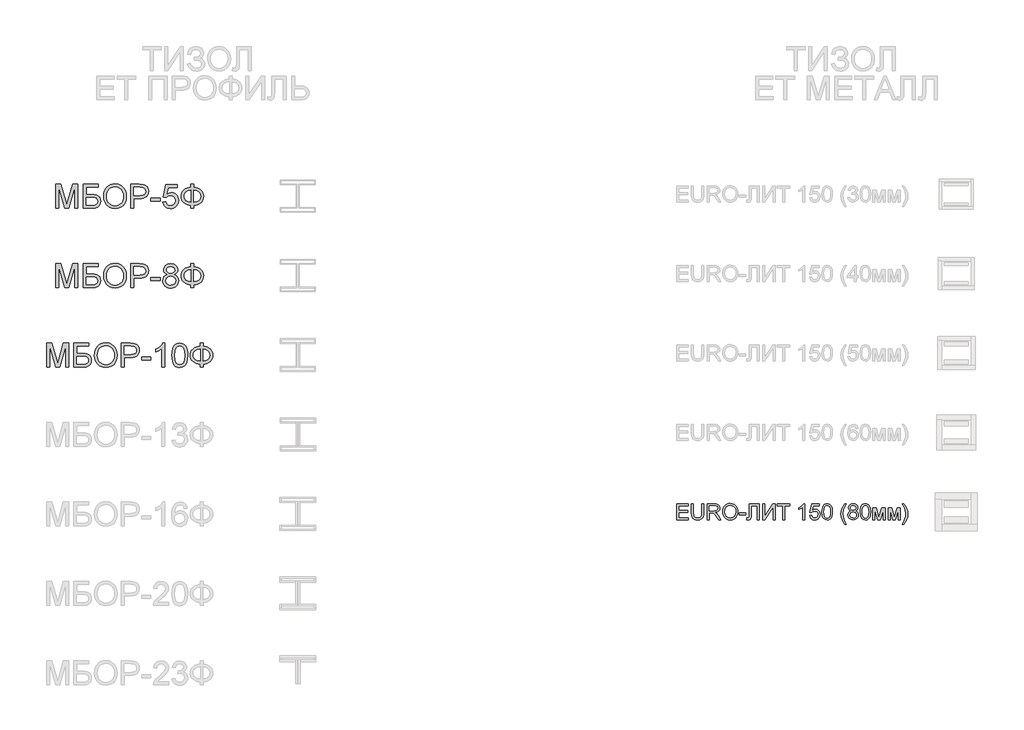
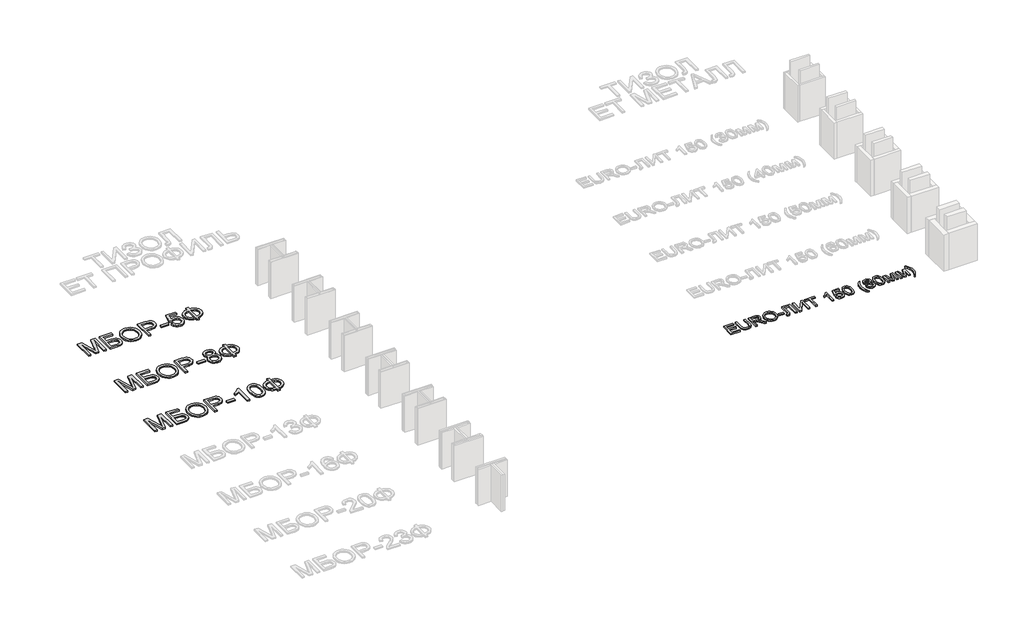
# One storey, part 15 of 35: 4 proxies.
"""IFC4 building model written with IfcOpenShell, lengths in millimetres."""

from ifc_helpers import new_model, si_unit, origin, origin_with_axes, place, context, project, spatial, polyline, outline, extrude, element, save

model = new_model("IFC4")

# Units and contexts
model_context = context("Model", 3, world=origin())
ifc_project = project(units=[si_unit("LENGTHUNIT", "METRE", prefix="MILLI")], contexts=[model_context])

# Site, building, storey
site = spatial("IfcSite", under=ifc_project)
building = spatial("IfcBuilding", under=site)
storey = spatial("IfcBuildingStorey", under=building, Name="Этаж 01", Elevation=0.0)

# Proxies
placement = place(None, origin())
element("IfcBuildingElementProxy", 1, Name="600 мм Arial", ObjectType="600 мм Arial", at=placement, inside=storey, context=model_context, shape_type="SweptSolid", body=[
    extrude(outline(polyline([(15621.8782648, -49310.4960856), (15621.8782648, -49009.1271552), (15686.6990723, -49009.1271552), (15748.3560947, -49221.5422192), (15760.7905062, -49265.9087878), (15774.2549872, -49217.8633993), (15834.88194, -49009.1271552), (15899.7027475, -49009.1271552), (15899.7027475, -49310.4960856), (15862.0316312, -49310.4960856), (15862.0316312, -49046.7982715), (15786.3215166, -49310.4960856), (15735.2594957, -49310.4960856), (15659.5493811, -49046.7982715), (15659.5493811, -49310.4960856), (15621.8782648, -49310.4960856)])), origin_with_axes(), (0.0, 0.0, 1.0), 20.0),
    extrude(outline(polyline([(15965.6272011, -49009.1271552), (16153.9827826, -49009.1271552), (16153.9827826, -49046.7982715), (16003.2983174, -49046.7982715), (16003.2983174, -49136.2671727), (16073.8580841, -49136.2671727), (16108.9356323, -49138.1801591), (16136.0301412, -49143.9191182), (16156.8338681, -49154.9739722), (16173.03907, -49172.8346431), (16183.4685245, -49195.8272678), (16186.9450094, -49222.2779832), (16184.471003, -49244.4888587), (16177.0489837, -49265.209812), (16164.7157398, -49283.3555915), (16147.5080595, -49297.840945), (16120.9653735, -49307.3323005), (16080.6271128, -49310.4960856), (15965.6272011, -49310.4960856), (15965.6272011, -49009.1271552)]), holes=[polyline([(16003.2983174, -49272.8249693), (16084.0116271, -49272.8249693), (16112.5408758, -49269.7163665), (16132.9399325, -49260.3905579), (16145.1904029, -49244.8475436), (16149.2738931, -49223.0873236), (16146.9378424, -49206.8821217), (16139.9296904, -49193.5831876), (16128.7552748, -49183.7239501), (16113.9204333, -49177.8378382), (16057.1562415, -49173.938289), (16003.2983174, -49173.938289), (16003.2983174, -49272.8249693)])]), origin_with_axes(), (0.0, 0.0, 1.0), 20.0),
    extrude(outline(polyline([(16224.6161257, -49163.784746), (16227.1269203, -49128.4358848), (16234.6593041, -49097.1429225), (16247.2132772, -49069.9058593), (16264.7888396, -49046.7246951), (16286.3329289, -49028.2156322), (16310.792483, -49014.994873), (16338.167502, -49007.0624175), (16368.4579858, -49004.4182657), (16407.9869062, -49009.3846726), (16443.4323364, -49024.2838934), (16472.862896, -49048.0674644), (16494.3472045, -49079.6869219), (16507.4805918, -49117.6155556), (16511.8583875, -49160.3266552), (16507.2506655, -49203.607972), (16493.4274996, -49242.0700345), (16471.1522447, -49273.7446743), (16441.1882562, -49296.6637226), (16406.0463287, -49310.569662), (16368.2372566, -49315.2049752), (16328.1013309, -49310.0822184), (16292.4535656, -49294.7139481), (16263.0965824, -49270.4889187), (16241.8330031, -49238.7958848), (16228.920345, -49202.329582), (16224.6161257, -49163.784746)]), holes=[polyline([(16262.287242, -49164.152628), (16264.1703379, -49189.1272169), (16269.8196258, -49211.2967056), (16279.2351057, -49230.6610942), (16292.4167774, -49247.2203825), (16308.4403375, -49260.4825284), (16326.3814826, -49269.9554898), (16346.2402125, -49275.6392666), (16368.0165274, -49277.5338589), (16390.1653228, -49275.6208725), (16410.2585775, -49269.8819134), (16428.2962916, -49260.3169815), (16444.278465, -49246.9260769), (16457.3635677, -49230.0173007), (16466.7100697, -49209.8987541), (16472.3179708, -49186.570437), (16474.1872712, -49160.0323496), (16470.9866978, -49126.6838468), (16461.3849778, -49097.8602924), (16445.6304313, -49074.2882536), (16423.9713789, -49056.6942972), (16397.8425602, -49045.7406108), (16368.678715, -49042.089382), (16347.6588575, -49043.8483178), (16328.1565132, -49049.1251251), (16310.1716822, -49057.9198041), (16293.7043644, -49070.2323546), (16279.9593733, -49086.6559864), (16270.1415226, -49107.7839093), (16264.2508121, -49133.6161231), (16262.287242, -49164.152628)])]), origin_with_axes(), (0.0, 0.0, 1.0), 20.0),
    extrude(outline(polyline([(16563.6561724, -49310.4960856), (16563.6561724, -49009.1271552), (16675.3451462, -49009.1271552), (16720.3739024, -49011.9966348), (16740.4510623, -49017.3585148), (16756.9781609, -49026.0865152), (16770.2862921, -49038.5761089), (16780.7065496, -49055.2227692), (16787.4387901, -49074.8584707), (16789.6828703, -49096.3151881), (16788.1676563, -49114.8150539), (16783.6220144, -49131.8341947), (16776.0459446, -49147.3726105), (16765.4394468, -49161.4303012), (16750.8782176, -49173.0829634), (16731.4379534, -49181.4062935), (16707.1186542, -49186.4002916), (16677.9203201, -49188.0649577), (16601.3272887, -49188.0649577), (16601.3272887, -49310.4960856), (16563.6561724, -49310.4960856)]), holes=[polyline([(16601.3272887, -49150.3938413), (16680.1276121, -49150.3938413), (16713.5312973, -49146.9357506), (16735.604217, -49136.5614783), (16747.9098697, -49119.914818), (16752.011754, -49097.6395632), (16749.5929298, -49080.7169915), (16742.3364575, -49066.44317), (16731.1436478, -49055.7010158), (16716.9158116, -49049.3734455), (16679.2446953, -49046.7982715), (16601.3272887, -49046.7982715), (16601.3272887, -49150.3938413)])]), origin_with_axes(), (0.0, 0.0, 1.0), 20.0),
    extrude(outline(polyline([(16817.9362075, -49221.0271844), (16817.9362075, -49183.3560681), (16935.658446, -49183.3560681), (16935.658446, -49221.0271844), (16817.9362075, -49221.0271844)])), origin_with_axes(), (0.0, 0.0, 1.0), 20.0),
    extrude(outline(polyline([(16968.6206727, -49230.4449635), (17006.291789, -49225.736074), (17013.2079705, -49248.3516196), (17025.2745, -49264.5476245), (17042.4361951, -49274.2873003), (17064.6378735, -49277.5338589), (17091.6404119, -49273.0181074), (17111.8739216, -49259.4708529), (17124.5106682, -49238.4555939), (17128.722917, -49211.5358289), (17124.7773826, -49186.1887595), (17112.9407794, -49166.8013783), (17093.1211369, -49154.4957256), (17065.2264847, -49150.3938413), (17046.9519465, -49152.0309162), (17032.1538933, -49156.9421409), (17011.0006786, -49173.938289), (16973.3295623, -49169.2293995), (17006.291789, -49013.8360447), (17152.2673647, -49013.8360447), (17152.2673647, -49051.507161), (17036.7524182, -49051.507161), (17020.6391868, -49134.5013392), (17047.5497548, -49118.1673786), (17075.7479097, -49112.722725), (17094.093725, -49114.4103837), (17110.9450196, -49119.4733597), (17126.3017936, -49127.9116529), (17140.1640471, -49139.7252635), (17151.6396661, -49154.1922229), (17159.8365368, -49170.5905629), (17164.7546592, -49188.9202833), (17166.3940333, -49209.1813842), (17160.4895273, -49246.8525005), (17153.1088948, -49263.6463136), (17142.7760092, -49279.0789633), (17127.1226303, -49294.8840935), (17108.8572893, -49306.1734722), (17087.9799861, -49312.9470994), (17064.4907207, -49315.2049752), (17027.490989, -49309.4016367), (17011.8123182, -49302.1474636), (16998.0144441, -49291.9916213), (16986.5342266, -49279.4399475), (16977.8085256, -49264.9982799), (16968.6206727, -49230.4449635)])), origin_with_axes(), (0.0, 0.0, 1.0), 20.0),
    extrude(outline(polyline([(17321.7873881, -49046.7982715), (17321.7873881, -49009.1271552), (17359.4585044, -49009.1271552), (17359.4585044, -49046.7982715), (17386.3299849, -49050.1184065), (17410.2170227, -49056.9886028), (17431.1196178, -49067.4088603), (17449.0377702, -49081.3791791), (17463.4104599, -49098.0856202), (17473.6766669, -49116.7142447), (17479.836391, -49137.2650526), (17481.8896324, -49159.738044), (17479.9007704, -49181.76038), (17473.9341842, -49202.0628676), (17463.9898741, -49220.6455069), (17450.0678398, -49237.5082978), (17432.4715841, -49251.7177399), (17411.5046097, -49262.3403325), (17387.1669164, -49269.3760756), (17359.4585044, -49272.8249693), (17359.4585044, -49310.4960856), (17321.7873881, -49310.4960856), (17321.7873881, -49272.8249693), (17296.6196611, -49270.0175699), (17273.650029, -49263.6555106), (17252.8784919, -49253.7387916), (17234.3050496, -49240.2674128), (17219.0149542, -49223.7977957), (17208.0934575, -49204.8863619), (17201.5405594, -49183.5331113), (17199.3562601, -49159.738044), (17201.5336617, -49135.8349114), (17208.0658663, -49114.4517704), (17218.9528741, -49095.5886211), (17234.194685, -49079.2454635), (17252.7336383, -49065.9051426), (17273.5120733, -49056.0505037), (17296.5299899, -49049.6815466), (17321.7873881, -49046.7982715)]), holes=[polyline([(17321.7873881, -49084.4693878), (17287.5099832, -49090.5026525), (17260.4614595, -49105.5122379), (17250.2090481, -49116.217604), (17242.8858972, -49128.8359564), (17238.4920066, -49143.3672952), (17237.0273764, -49159.8116204), (17238.4736125, -49176.1064935), (17242.8123208, -49190.5573582), (17250.0435012, -49203.1642143), (17260.1671539, -49213.9270619), (17287.1421012, -49229.0746031), (17321.7873881, -49235.153853), (17321.7873881, -49084.4693878)]), polyline([(17359.4585044, -49084.4693878), (17359.4585044, -49235.153853), (17394.7015995, -49228.9274503), (17421.5569852, -49213.7799091), (17431.471405, -49203.0538497), (17438.5531334, -49190.4837818), (17444.2185161, -49159.8116204), (17438.6543009, -49129.5533263), (17431.6990319, -49117.0591341), (17421.9616554, -49106.3215783), (17395.2074373, -49090.9992932), (17359.4585044, -49084.4693878)])]), origin_with_axes(), (0.0, 0.0, 1.0), 20.0),
])
element("IfcBuildingElementProxy", 2, Name="600 мм Arial", ObjectType="600 мм Arial", at=placement, inside=storey, context=model_context, shape_type="SweptSolid", body=[
    extrude(outline(polyline([(15621.8782648, -50310.4960856), (15621.8782648, -50009.1271552), (15686.6990723, -50009.1271552), (15748.3560947, -50221.5422192), (15760.7905062, -50265.9087878), (15774.2549872, -50217.8633993), (15834.88194, -50009.1271552), (15899.7027475, -50009.1271552), (15899.7027475, -50310.4960856), (15862.0316312, -50310.4960856), (15862.0316312, -50046.7982715), (15786.3215166, -50310.4960856), (15735.2594957, -50310.4960856), (15659.5493811, -50046.7982715), (15659.5493811, -50310.4960856), (15621.8782648, -50310.4960856)])), origin_with_axes(), (0.0, 0.0, 1.0), 20.0),
    extrude(outline(polyline([(15965.6272011, -50009.1271552), (16153.9827826, -50009.1271552), (16153.9827826, -50046.7982715), (16003.2983174, -50046.7982715), (16003.2983174, -50136.2671727), (16073.8580841, -50136.2671727), (16108.9356323, -50138.1801591), (16136.0301412, -50143.9191182), (16156.8338681, -50154.9739722), (16173.03907, -50172.8346431), (16183.4685245, -50195.8272678), (16186.9450094, -50222.2779832), (16184.471003, -50244.4888587), (16177.0489837, -50265.209812), (16164.7157398, -50283.3555915), (16147.5080595, -50297.840945), (16120.9653735, -50307.3323005), (16080.6271128, -50310.4960856), (15965.6272011, -50310.4960856), (15965.6272011, -50009.1271552)]), holes=[polyline([(16003.2983174, -50272.8249693), (16084.0116271, -50272.8249693), (16112.5408758, -50269.7163665), (16132.9399325, -50260.3905579), (16145.1904029, -50244.8475436), (16149.2738931, -50223.0873236), (16146.9378424, -50206.8821217), (16139.9296904, -50193.5831876), (16128.7552748, -50183.7239501), (16113.9204333, -50177.8378382), (16057.1562415, -50173.938289), (16003.2983174, -50173.938289), (16003.2983174, -50272.8249693)])]), origin_with_axes(), (0.0, 0.0, 1.0), 20.0),
    extrude(outline(polyline([(16224.6161257, -50163.784746), (16227.1269203, -50128.4358848), (16234.6593041, -50097.1429225), (16247.2132772, -50069.9058593), (16264.7888396, -50046.7246951), (16286.3329289, -50028.2156322), (16310.792483, -50014.994873), (16338.167502, -50007.0624175), (16368.4579858, -50004.4182657), (16407.9869062, -50009.3846726), (16443.4323364, -50024.2838934), (16472.862896, -50048.0674644), (16494.3472045, -50079.6869219), (16507.4805918, -50117.6155556), (16511.8583875, -50160.3266552), (16507.2506655, -50203.607972), (16493.4274996, -50242.0700345), (16471.1522447, -50273.7446743), (16441.1882562, -50296.6637226), (16406.0463287, -50310.569662), (16368.2372566, -50315.2049752), (16328.1013309, -50310.0822184), (16292.4535656, -50294.7139481), (16263.0965824, -50270.4889187), (16241.8330031, -50238.7958848), (16228.920345, -50202.329582), (16224.6161257, -50163.784746)]), holes=[polyline([(16262.287242, -50164.152628), (16264.1703379, -50189.1272169), (16269.8196258, -50211.2967056), (16279.2351057, -50230.6610942), (16292.4167774, -50247.2203825), (16308.4403375, -50260.4825284), (16326.3814826, -50269.9554898), (16346.2402125, -50275.6392666), (16368.0165274, -50277.5338589), (16390.1653228, -50275.6208725), (16410.2585775, -50269.8819134), (16428.2962916, -50260.3169815), (16444.278465, -50246.9260769), (16457.3635677, -50230.0173007), (16466.7100697, -50209.8987541), (16472.3179708, -50186.570437), (16474.1872712, -50160.0323496), (16470.9866978, -50126.6838468), (16461.3849778, -50097.8602924), (16445.6304313, -50074.2882536), (16423.9713789, -50056.6942972), (16397.8425602, -50045.7406108), (16368.678715, -50042.089382), (16347.6588575, -50043.8483178), (16328.1565132, -50049.1251251), (16310.1716822, -50057.9198041), (16293.7043644, -50070.2323546), (16279.9593733, -50086.6559864), (16270.1415226, -50107.7839093), (16264.2508121, -50133.6161231), (16262.287242, -50164.152628)])]), origin_with_axes(), (0.0, 0.0, 1.0), 20.0),
    extrude(outline(polyline([(16563.6561724, -50310.4960856), (16563.6561724, -50009.1271552), (16675.3451462, -50009.1271552), (16720.3739024, -50011.9966348), (16740.4510623, -50017.3585148), (16756.9781609, -50026.0865152), (16770.2862921, -50038.5761089), (16780.7065496, -50055.2227692), (16787.4387901, -50074.8584707), (16789.6828703, -50096.3151881), (16788.1676563, -50114.8150539), (16783.6220144, -50131.8341947), (16776.0459446, -50147.3726105), (16765.4394468, -50161.4303012), (16750.8782176, -50173.0829634), (16731.4379534, -50181.4062935), (16707.1186542, -50186.4002916), (16677.9203201, -50188.0649577), (16601.3272887, -50188.0649577), (16601.3272887, -50310.4960856), (16563.6561724, -50310.4960856)]), holes=[polyline([(16601.3272887, -50150.3938413), (16680.1276121, -50150.3938413), (16713.5312973, -50146.9357506), (16735.604217, -50136.5614783), (16747.9098697, -50119.914818), (16752.011754, -50097.6395632), (16749.5929298, -50080.7169915), (16742.3364575, -50066.44317), (16731.1436478, -50055.7010158), (16716.9158116, -50049.3734455), (16679.2446953, -50046.7982715), (16601.3272887, -50046.7982715), (16601.3272887, -50150.3938413)])]), origin_with_axes(), (0.0, 0.0, 1.0), 20.0),
    extrude(outline(polyline([(16817.9362075, -50221.0271844), (16817.9362075, -50183.3560681), (16935.658446, -50183.3560681), (16935.658446, -50221.0271844), (16817.9362075, -50221.0271844)])), origin_with_axes(), (0.0, 0.0, 1.0), 20.0),
    extrude(outline(polyline([(17023.5086664, -50144.5077294), (17003.339536, -50134.5749156), (16989.1852763, -50121.1104345), (16980.8251579, -50104.3901979), (16978.0384518, -50084.690117), (16979.555965, -50069.3264452), (16984.1085047, -50055.2411633), (16991.6960709, -50042.4342713), (17002.3186635, -50030.9057693), (17015.4658463, -50021.3776256), (17030.627183, -50014.5718087), (17066.9923182, -50009.1271552), (17103.5781827, -50014.7005674), (17118.9050663, -50021.6673327), (17132.2545842, -50031.4208041), (17143.0703148, -50043.1746339), (17150.7958367, -50056.1424742), (17155.4311499, -50070.3243251), (17156.9762543, -50085.7201866), (17154.2263363, -50104.785671), (17145.9765826, -50121.2207991), (17132.1350225, -50134.6025067), (17112.6096856, -50144.5077294), (17135.7954484, -50156.4546972), (17152.6720349, -50174.0486536), (17162.9635337, -50196.4434701), (17166.3940333, -50222.793018), (17164.6925791, -50241.5825909), (17159.5882164, -50258.8086653), (17151.0809453, -50274.4712413), (17139.1707657, -50288.5703187), (17124.483077, -50300.2229809), (17107.6432787, -50308.5463111), (17088.6513707, -50313.5403092), (17067.507353, -50315.2049752), (17046.3633354, -50313.5334114), (17027.3714274, -50308.5187199), (17010.531629, -50300.1609008), (16995.8439404, -50288.4599541), (16983.9337608, -50274.2620084), (16975.4264896, -50258.4131922), (16970.322127, -50240.9135055), (16968.6206727, -50221.7629484), (16972.1891281, -50194.392528), (16982.8944941, -50171.8781499), (17000.1849479, -50154.9923663), (17023.5086664, -50144.5077294)]), holes=[polyline([(17015.7095681, -50085.793763), (17019.0480972, -50102.2380882), (17029.0636845, -50115.3714754), (17045.4620245, -50123.9799141), (17067.9488114, -50126.8493937), (17089.9113665, -50123.9983082), (17106.0613861, -50115.4450518), (17115.9942, -50102.753123), (17119.3051379, -50087.4860202), (17115.8838354, -50071.6395032), (17105.6199277, -50058.5337072), (17089.2491789, -50049.7321304), (17067.507353, -50046.7982715), (17045.6275714, -50049.6677511), (17029.2844137, -50058.2761898), (17019.1032795, -50070.8945422), (17015.7095681, -50085.793763)]), polyline([(17006.291789, -50220.4385732), (17012.5825711, -50248.8022751), (17021.2921774, -50260.969972), (17034.8394319, -50270.0290662), (17051.0630278, -50275.6576607), (17067.8016586, -50277.5338589), (17093.4430337, -50273.5883245), (17112.683262, -50261.7517213), (17124.7130033, -50243.8266711), (17128.722917, -50221.6157956), (17124.5842446, -50199.0278411), (17112.1682272, -50180.7073178), (17092.4865405, -50168.5672119), (17066.5508598, -50164.52051), (17041.2681697, -50168.5120296), (17022.2210794, -50180.4865886), (17010.2741116, -50198.457624), (17006.291789, -50220.4385732)])]), origin_with_axes(), (0.0, 0.0, 1.0), 20.0),
    extrude(outline(polyline([(17321.7873881, -50046.7982715), (17321.7873881, -50009.1271552), (17359.4585044, -50009.1271552), (17359.4585044, -50046.7982715), (17386.3299849, -50050.1184065), (17410.2170227, -50056.9886028), (17431.1196178, -50067.4088603), (17449.0377702, -50081.3791791), (17463.4104599, -50098.0856202), (17473.6766669, -50116.7142447), (17479.836391, -50137.2650526), (17481.8896324, -50159.738044), (17479.9007704, -50181.76038), (17473.9341842, -50202.0628676), (17463.9898741, -50220.6455069), (17450.0678398, -50237.5082978), (17432.4715841, -50251.7177399), (17411.5046097, -50262.3403325), (17387.1669164, -50269.3760756), (17359.4585044, -50272.8249693), (17359.4585044, -50310.4960856), (17321.7873881, -50310.4960856), (17321.7873881, -50272.8249693), (17296.6196611, -50270.0175699), (17273.650029, -50263.6555106), (17252.8784919, -50253.7387916), (17234.3050496, -50240.2674128), (17219.0149542, -50223.7977957), (17208.0934575, -50204.8863619), (17201.5405594, -50183.5331113), (17199.3562601, -50159.738044), (17201.5336617, -50135.8349114), (17208.0658663, -50114.4517704), (17218.9528741, -50095.5886211), (17234.194685, -50079.2454635), (17252.7336383, -50065.9051426), (17273.5120733, -50056.0505037), (17296.5299899, -50049.6815466), (17321.7873881, -50046.7982715)]), holes=[polyline([(17321.7873881, -50084.4693878), (17287.5099832, -50090.5026525), (17260.4614595, -50105.5122379), (17250.2090481, -50116.217604), (17242.8858972, -50128.8359564), (17238.4920066, -50143.3672952), (17237.0273764, -50159.8116204), (17238.4736125, -50176.1064935), (17242.8123208, -50190.5573582), (17250.0435012, -50203.1642143), (17260.1671539, -50213.9270619), (17287.1421012, -50229.0746031), (17321.7873881, -50235.153853), (17321.7873881, -50084.4693878)]), polyline([(17359.4585044, -50084.4693878), (17359.4585044, -50235.153853), (17394.7015995, -50228.9274503), (17421.5569852, -50213.7799091), (17431.471405, -50203.0538497), (17438.5531334, -50190.4837818), (17444.2185161, -50159.8116204), (17438.6543009, -50129.5533263), (17431.6990319, -50117.0591341), (17421.9616554, -50106.3215783), (17395.2074373, -50090.9992932), (17359.4585044, -50084.4693878)])]), origin_with_axes(), (0.0, 0.0, 1.0), 20.0),
])
element("IfcBuildingElementProxy", 3, Name="600 мм Arial", ObjectType="600 мм Arial", at=placement, inside=storey, context=model_context, shape_type="SweptSolid", body=[
    extrude(outline(polyline([(15506.5104711, -51310.4960856), (15506.5104711, -51009.1271552), (15571.3312786, -51009.1271552), (15632.988301, -51221.5422192), (15645.4227125, -51265.9087878), (15658.8871935, -51217.8633993), (15719.5141463, -51009.1271552), (15784.3349539, -51009.1271552), (15784.3349539, -51310.4960856), (15746.6638375, -51310.4960856), (15746.6638375, -51046.7982715), (15670.9537229, -51310.4960856), (15619.891702, -51310.4960856), (15544.1815874, -51046.7982715), (15544.1815874, -51310.4960856), (15506.5104711, -51310.4960856)])), origin_with_axes(), (0.0, 0.0, 1.0), 20.0),
    extrude(outline(polyline([(15850.2594074, -51009.1271552), (16038.6149889, -51009.1271552), (16038.6149889, -51046.7982715), (15887.9305237, -51046.7982715), (15887.9305237, -51136.2671727), (15958.4902904, -51136.2671727), (15993.5678386, -51138.1801591), (16020.6623476, -51143.9191182), (16041.4660744, -51154.9739722), (16057.6712763, -51172.8346431), (16068.1007308, -51195.8272678), (16071.5772157, -51222.2779832), (16069.1032093, -51244.4888587), (16061.68119, -51265.209812), (16049.3479461, -51283.3555915), (16032.1402658, -51297.840945), (16005.5975799, -51307.3323005), (15965.2593191, -51310.4960856), (15850.2594074, -51310.4960856), (15850.2594074, -51009.1271552)]), holes=[polyline([(15887.9305237, -51272.8249693), (15968.6438334, -51272.8249693), (15997.1730822, -51269.7163665), (16017.5721388, -51260.3905579), (16029.8226092, -51244.8475436), (16033.9060994, -51223.0873236), (16031.5700487, -51206.8821217), (16024.5618967, -51193.5831876), (16013.3874811, -51183.7239501), (15998.5526396, -51177.8378382), (15941.7884478, -51173.938289), (15887.9305237, -51173.938289), (15887.9305237, -51272.8249693)])]), origin_with_axes(), (0.0, 0.0, 1.0), 20.0),
    extrude(outline(polyline([(16109.248332, -51163.784746), (16111.7591266, -51128.4358848), (16119.2915105, -51097.1429225), (16131.8454835, -51069.9058593), (16149.4210459, -51046.7246951), (16170.9651352, -51028.2156322), (16195.4246894, -51014.994873), (16222.7997083, -51007.0624175), (16253.0901921, -51004.4182657), (16292.6191125, -51009.3846726), (16328.0645427, -51024.2838934), (16357.4951023, -51048.0674644), (16378.9794109, -51079.6869219), (16392.1127981, -51117.6155556), (16396.4905938, -51160.3266552), (16391.8828718, -51203.607972), (16378.0597059, -51242.0700345), (16355.7844511, -51273.7446743), (16325.8204626, -51296.6637226), (16290.678535, -51310.569662), (16252.8694629, -51315.2049752), (16212.7335372, -51310.0822184), (16177.0857719, -51294.7139481), (16147.7287887, -51270.4889187), (16126.4652094, -51238.7958848), (16113.5525513, -51202.329582), (16109.248332, -51163.784746)]), holes=[polyline([(16146.9194483, -51164.152628), (16148.8025443, -51189.1272169), (16154.4518321, -51211.2967056), (16163.867312, -51230.6610942), (16177.0489837, -51247.2203825), (16193.0725439, -51260.4825284), (16211.0136889, -51269.9554898), (16230.8724189, -51275.6392666), (16252.6487337, -51277.5338589), (16274.7975291, -51275.6208725), (16294.8907838, -51269.8819134), (16312.9284979, -51260.3169815), (16328.9106713, -51246.9260769), (16341.995774, -51230.0173007), (16351.342276, -51209.8987541), (16356.9501771, -51186.570437), (16358.8194775, -51160.0323496), (16355.6189042, -51126.6838468), (16346.0171841, -51097.8602924), (16330.2626376, -51074.2882536), (16308.6035852, -51056.6942972), (16282.4747665, -51045.7406108), (16253.3109213, -51042.089382), (16232.2910638, -51043.8483178), (16212.7887195, -51049.1251251), (16194.8038885, -51057.9198041), (16178.3365707, -51070.2323546), (16164.5915796, -51086.6559864), (16154.7737289, -51107.7839093), (16148.8830184, -51133.6161231), (16146.9194483, -51164.152628)])]), origin_with_axes(), (0.0, 0.0, 1.0), 20.0),
    extrude(outline(polyline([(16448.2883787, -51310.4960856), (16448.2883787, -51009.1271552), (16559.9773525, -51009.1271552), (16605.0061087, -51011.9966348), (16625.0832686, -51017.3585148), (16641.6103672, -51026.0865152), (16654.9184984, -51038.5761089), (16665.3387559, -51055.2227692), (16672.0709964, -51074.8584707), (16674.3150766, -51096.3151881), (16672.7998626, -51114.8150539), (16668.2542207, -51131.8341947), (16660.6781509, -51147.3726105), (16650.0716531, -51161.4303012), (16635.5104239, -51173.0829634), (16616.0701597, -51181.4062935), (16591.7508606, -51186.4002916), (16562.5525264, -51188.0649577), (16485.9594951, -51188.0649577), (16485.9594951, -51310.4960856), (16448.2883787, -51310.4960856)]), holes=[polyline([(16485.9594951, -51150.3938413), (16564.7598184, -51150.3938413), (16598.1635036, -51146.9357506), (16620.2364233, -51136.5614783), (16632.542076, -51119.914818), (16636.6439603, -51097.6395632), (16634.2251362, -51080.7169915), (16626.9686638, -51066.44317), (16615.7758541, -51055.7010158), (16601.5480179, -51049.3734455), (16563.8769016, -51046.7982715), (16485.9594951, -51046.7982715), (16485.9594951, -51150.3938413)])]), origin_with_axes(), (0.0, 0.0, 1.0), 20.0),
    extrude(outline(polyline([(16702.5684138, -51221.0271844), (16702.5684138, -51183.3560681), (16820.2906523, -51183.3560681), (16820.2906523, -51221.0271844), (16702.5684138, -51221.0271844)])), origin_with_axes(), (0.0, 0.0, 1.0), 20.0),
    extrude(outline(polyline([(16994.5195652, -51310.4960856), (16956.8484489, -51310.4960856), (16956.8484489, -51075.6402199), (16921.1638953, -51101.0608658), (16881.5062163, -51120.0803649), (16881.5062163, -51084.4693878), (16911.0931257, -51068.3745505), (16936.7253037, -51049.2262927), (16956.9312223, -51028.8640242), (16970.2393535, -51009.1271552), (16994.5195652, -51009.1271552), (16994.5195652, -51310.4960856)])), origin_with_axes(), (0.0, 0.0, 1.0), 20.0),
    extrude(outline(polyline([(17083.9884664, -51162.2396416), (17086.7567784, -51114.001115), (17095.0617145, -51075.5298553), (17108.8205011, -51046.2372515), (17127.9503648, -51025.5346922), (17152.5892615, -51013.2290394), (17182.8751467, -51009.1271552), (17206.0885006, -51011.5551764), (17226.8738333, -51018.8392399), (17244.2562576, -51030.6942372), (17257.2608861, -51046.8350597), (17267.0833354, -51067.1237517), (17274.9192219, -51091.4223575), (17280.0511757, -51122.2784599), (17281.761827, -51162.2396416), (17279.0211062, -51210.2022567), (17270.7989436, -51248.5815459), (17257.1229304, -51277.9017409), (17238.0206578, -51298.6870736), (17213.3265789, -51311.0754998), (17182.8751467, -51315.2049752), (17162.1266022, -51313.4115505), (17143.7325024, -51308.0312763), (17127.6928474, -51299.0641526), (17114.0076372, -51286.5101796), (17100.87425, -51263.816459), (17091.4932591, -51235.5401291), (17085.8646646, -51201.68119), (17083.9884664, -51162.2396416)]), holes=[polyline([(17121.6595827, -51162.1660652), (17126.0741667, -51221.4226576), (17131.5923966, -51241.6906562), (17139.3179185, -51255.7184566), (17159.0363934, -51272.0800083), (17182.8751467, -51277.5338589), (17206.7139, -51272.0616142), (17226.4323749, -51255.6448802), (17234.1578968, -51241.5940872), (17239.6761268, -51221.3306871), (17244.0907107, -51162.1660652), (17239.8232796, -51104.2430451), (17234.4889906, -51084.041725), (17227.0209861, -51069.6805316), (17207.3392994, -51052.5188365), (17182.4336883, -51046.7982715), (17158.8524524, -51051.8382548), (17139.9065297, -51066.9582048), (17131.9234904, -51082.5931896), (17126.2213195, -51103.672828), (17121.6595827, -51162.1660652)])]), origin_with_axes(), (0.0, 0.0, 1.0), 20.0),
    extrude(outline(polyline([(17437.1551818, -51046.7982715), (17437.1551818, -51009.1271552), (17474.8262981, -51009.1271552), (17474.8262981, -51046.7982715), (17501.6977786, -51050.1184065), (17525.5848164, -51056.9886028), (17546.4874115, -51067.4088603), (17564.4055639, -51081.3791791), (17578.7782536, -51098.0856202), (17589.0444605, -51116.7142447), (17595.2041847, -51137.2650526), (17597.2574261, -51159.738044), (17595.268564, -51181.76038), (17589.3019779, -51202.0628676), (17579.3576678, -51220.6455069), (17565.4356335, -51237.5082978), (17547.8393778, -51251.7177399), (17526.8724034, -51262.3403325), (17502.5347101, -51269.3760756), (17474.8262981, -51272.8249693), (17474.8262981, -51310.4960856), (17437.1551818, -51310.4960856), (17437.1551818, -51272.8249693), (17411.9874548, -51270.0175699), (17389.0178227, -51263.6555106), (17368.2462856, -51253.7387916), (17349.6728433, -51240.2674128), (17334.3827479, -51223.7977957), (17323.4612512, -51204.8863619), (17316.9083531, -51183.5331113), (17314.7240538, -51159.738044), (17316.9014553, -51135.8349114), (17323.43366, -51114.4517704), (17334.3206678, -51095.5886211), (17349.5624787, -51079.2454635), (17368.101432, -51065.9051426), (17388.879867, -51056.0505037), (17411.8977836, -51049.6815466), (17437.1551818, -51046.7982715)]), holes=[polyline([(17474.8262981, -51084.4693878), (17474.8262981, -51235.153853), (17510.0693932, -51228.9274503), (17536.9247789, -51213.7799091), (17546.8391986, -51203.0538497), (17553.9209271, -51190.4837818), (17559.5863098, -51159.8116204), (17554.0220946, -51129.5533263), (17547.0668256, -51117.0591341), (17537.3294491, -51106.3215783), (17510.575231, -51090.9992932), (17474.8262981, -51084.4693878)]), polyline([(17437.1551818, -51084.4693878), (17402.8777769, -51090.5026525), (17375.8292532, -51105.5122379), (17365.5768418, -51116.217604), (17358.2536909, -51128.8359564), (17353.8598003, -51143.3672952), (17352.3951701, -51159.8116204), (17353.8414062, -51176.1064935), (17358.1801145, -51190.5573582), (17365.4112949, -51203.1642143), (17375.5349476, -51213.9270619), (17402.5098949, -51229.0746031), (17437.1551818, -51235.153853), (17437.1551818, -51084.4693878)])]), origin_with_axes(), (0.0, 0.0, 1.0), 20.0),
])
element("IfcBuildingElementProxy", 4, Name="400 мм Arial", ObjectType="400 мм Arial", at=placement, inside=storey, context=model_context, shape_type="SweptSolid", body=[
    extrude(outline(polyline([(23432.9130067, -53230.4960856), (23432.9130067, -53029.5834653), (23577.3189525, -53029.5834653), (23577.3189525, -53054.6975429), (23458.0270842, -53054.6975429), (23458.0270842, -53114.343477), (23571.0404331, -53114.343477), (23571.0404331, -53139.4575546), (23458.0270842, -53139.4575546), (23458.0270842, -53205.3820081), (23580.4582122, -53205.3820081), (23580.4582122, -53230.4960856), (23432.9130067, -53230.4960856)])), origin_with_axes(), (0.0, 0.0, 1.0), 20.0),
    extrude(outline(polyline([(23749.9782356, -53029.5834653), (23775.0923131, -53029.5834653), (23775.0923131, -53145.4908193), (23773.3877932, -53172.6343792), (23768.2742335, -53193.5362079), (23758.7215643, -53209.661702), (23743.6997162, -53222.4762582), (23723.1719008, -53230.8455735), (23697.1013301, -53233.6353453), (23671.6009765, -53231.2073242), (23651.2141826, -53223.9232607), (23635.9348171, -53212.0345409), (23625.7567485, -53195.7925508), (23620.0361835, -53174.0078053), (23618.1293285, -53145.4908193), (23618.1293285, -53029.5834653), (23643.243406, -53029.5834653), (23643.243406, -53144.6079025), (23644.4819421, -53167.1774629), (23648.1975502, -53182.8921555), (23654.9297907, -53193.7753312), (23665.2182239, -53201.850341), (23678.633654, -53206.8535361), (23694.7468854, -53208.5212678), (23720.2901585, -53205.2225926), (23737.274044, -53195.3265669), (23746.8021877, -53176.0495504), (23749.9782356, -53144.6079025), (23749.9782356, -53029.5834653)])), origin_with_axes(), (0.0, 0.0, 1.0), 20.0),
    extrude(outline(polyline([(23819.0419488, -53230.4960856), (23819.0419488, -53029.5834653), (23905.616845, -53029.5834653), (23928.8853812, -53030.9384974), (23945.8140843, -53035.0035934), (23958.1871821, -53042.5083861), (23967.7889022, -53054.1825081), (23973.9509256, -53068.6586646), (23976.0049334, -53084.5695609), (23972.6020249, -53104.3616122), (23962.3932996, -53120.7691492), (23945.072189, -53132.7988905), (23920.3321248, -53139.4575546), (23934.6059462, -53150.1997088), (23954.9620833, -53176.0495504), (23988.4638703, -53230.4960856), (23959.2785653, -53230.4960856), (23933.1344182, -53188.8518438), (23914.2498091, -53161.2852196), (23900.9815318, -53148.262197), (23889.0376297, -53143.4797311), (23874.4695027, -53142.5968143), (23844.1560263, -53142.5968143), (23844.1560263, -53230.4960856), (23819.0419488, -53230.4960856)]), holes=[polyline([(23844.1560263, -53117.4827367), (23900.3683952, -53117.4827367), (23929.0386653, -53113.9265441), (23938.4687072, -53109.3034937), (23945.323575, -53102.5467277), (23950.8908559, -53085.5015286), (23948.2359741, -53073.2510582), (23940.2713289, -53063.379558), (23926.5677246, -53056.8680467), (23906.6959655, -53054.6975429), (23844.1560263, -53054.6975429), (23844.1560263, -53117.4827367)])]), origin_with_axes(), (0.0, 0.0, 1.0), 20.0),
    extrude(outline(polyline([(24010.53679, -53132.6885259), (24012.2106531, -53109.1226184), (24017.2322423, -53088.2606436), (24025.6015577, -53070.1026014), (24037.3185993, -53054.648492), (24051.6813255, -53042.3091167), (24067.9876949, -53033.4952772), (24086.2377076, -53028.2069736), (24106.4313634, -53026.4442057), (24132.783977, -53029.7551436), (24156.4142638, -53039.6879575), (24176.0346369, -53055.5436715), (24190.3575093, -53076.6233098), (24199.1131007, -53101.9090656), (24202.0316312, -53130.383132), (24198.9598166, -53159.2373432), (24189.7443726, -53184.8787182), (24174.8942027, -53205.9951448), (24154.9182104, -53221.2745103), (24131.4902587, -53230.5451366), (24106.2842106, -53233.6353453), (24079.5269268, -53230.2201742), (24055.76175, -53219.9746606), (24036.1904278, -53203.824641), (24022.0147083, -53182.6959517), (24013.4062696, -53158.3850832), (24010.53679, -53132.6885259)]), holes=[polyline([(24035.6508675, -53132.9337805), (24040.6724568, -53164.3631656), (24055.7372245, -53188.3122835), (24078.3803613, -53203.4690217), (24106.1370578, -53208.5212678), (24134.2984246, -53203.4199708), (24156.9783496, -53188.1160798), (24165.7017514, -53176.8435623), (24171.9327527, -53163.4311979), (24176.9175537, -53130.1869283), (24174.7838381, -53107.9545931), (24168.3826914, -53088.7388902), (24157.8796604, -53073.0241976), (24143.4402921, -53061.2948933), (24126.0210797, -53053.9924357), (24106.5785162, -53051.5582832), (24079.563715, -53056.2487786), (24056.5956158, -53070.3202649), (24047.4322884, -53081.2693528), (24040.8870546, -53095.3546347), (24035.6508675, -53132.9337805)])]), origin_with_axes(), (0.0, 0.0, 1.0), 20.0),
    extrude(outline(polyline([(24220.8671894, -53170.8501515), (24220.8671894, -53145.736074), (24299.3486817, -53145.736074), (24299.3486817, -53170.8501515), (24220.8671894, -53170.8501515)])), origin_with_axes(), (0.0, 0.0, 1.0), 20.0),
    extrude(outline(polyline([(24346.4375771, -53029.5834653), (24468.8687051, -53029.5834653), (24468.8687051, -53230.4960856), (24443.7546275, -53230.4960856), (24443.7546275, -53054.6975429), (24371.5516546, -53054.6975429), (24371.5516546, -53157.2139922), (24368.6331241, -53202.9539869), (24364.1143069, -53215.8789077), (24356.3949164, -53225.5664669), (24345.8244404, -53231.6181257), (24332.7523669, -53233.6353453), (24311.9057205, -53230.4960856), (24315.0449802, -53205.3820081), (24327.0624587, -53208.5212678), (24335.5544014, -53206.835142), (24341.6060602, -53201.7767646), (24345.2296979, -53190.4643932), (24346.4375771, -53170.0162856), (24346.4375771, -53029.5834653)])), origin_with_axes(), (0.0, 0.0, 1.0), 20.0),
    extrude(outline(polyline([(24512.8183408, -53029.5834653), (24537.9324183, -53029.5834653), (24537.9324183, -53188.704691), (24643.097618, -53029.5834653), (24669.7813254, -53029.5834653), (24669.7813254, -53230.4960856), (24644.6672478, -53230.4960856), (24644.6672478, -53071.8163184), (24539.7473028, -53230.4960856), (24512.8183408, -53230.4960856), (24512.8183408, -53029.5834653)])), origin_with_axes(), (0.0, 0.0, 1.0), 20.0),
    extrude(outline(polyline([(24763.9591161, -53230.4960856), (24763.9591161, -53054.6975429), (24698.0346626, -53054.6975429), (24698.0346626, -53029.5834653), (24854.9976472, -53029.5834653), (24854.9976472, -53054.6975429), (24789.0731937, -53054.6975429), (24789.0731937, -53230.4960856), (24763.9591161, -53230.4960856)])), origin_with_axes(), (0.0, 0.0, 1.0), 20.0),
    extrude(outline(polyline([(25046.4924884, -53230.4960856), (25021.3784109, -53230.4960856), (25021.3784109, -53073.9255085), (24997.5887085, -53090.8726057), (24971.1502558, -53103.5522718), (24971.1502558, -53079.8116204), (25007.9629808, -53056.3162237), (25021.4335932, -53042.741378), (25030.3056806, -53029.5834653), (25046.4924884, -53029.5834653), (25046.4924884, -53230.4960856)])), origin_with_axes(), (0.0, 0.0, 1.0), 20.0),
    extrude(outline(polyline([(25106.1384226, -53177.1286709), (25131.2525001, -53173.9894112), (25135.8632878, -53189.0664416), (25143.9076408, -53199.8637782), (25155.3487708, -53206.3568954), (25170.1498897, -53208.5212678), (25188.151582, -53205.5107668), (25201.6405885, -53196.4792638), (25210.0650862, -53182.4690912), (25212.8732521, -53164.5225812), (25210.2428958, -53147.6245349), (25202.3518271, -53134.6996141), (25189.1387321, -53126.4958456), (25170.5422972, -53123.7612561), (25148.493903, -53128.1267891), (25134.3917598, -53139.4575546), (25109.2776823, -53136.3182949), (25131.2525001, -53032.722725), (25228.5695506, -53032.722725), (25228.5695506, -53057.8368026), (25151.5595863, -53057.8368026), (25140.817432, -53113.1662547), (25158.7578106, -53102.2769476), (25177.5565806, -53098.6471786), (25201.0213205, -53103.1476017), (25220.5006721, -53116.6488709), (25233.6156653, -53137.2257371), (25237.9873297, -53162.9529513), (25234.0509923, -53188.0670289), (25222.2419803, -53209.5513374), (25211.8063943, -53220.0880909), (25199.6295003, -53227.6143434), (25185.7112981, -53232.1300948), (25170.0517879, -53233.6353453), (25145.3853001, -53229.766453), (25125.7342702, -53218.1597761), (25112.2636578, -53200.1642151), (25106.1384226, -53177.1286709)])), origin_with_axes(), (0.0, 0.0, 1.0), 20.0),
    extrude(outline(polyline([(25259.9621475, -53131.6584563), (25261.8076888, -53099.4994385), (25267.3443129, -53073.8519321), (25276.5168373, -53054.3235295), (25289.2700798, -53040.5218233), (25305.6960109, -53032.3180548), (25325.886601, -53029.5834653), (25341.3621703, -53031.2021461), (25355.2190588, -53036.0581885), (25366.8073416, -53043.96152), (25375.477094, -53054.7220684), (25387.2493178, -53084.4469336), (25391.8110546, -53131.6584563), (25389.9839073, -53163.633533), (25384.5024656, -53189.2197258), (25375.3851235, -53208.7665225), (25362.6502751, -53222.623411), (25346.1875558, -53230.8823617), (25325.886601, -53233.6353453), (25299.7915048, -53228.8528794), (25279.974928, -53214.5054816), (25271.2193365, -53199.3763345), (25264.9653426, -53180.525448), (25259.9621475, -53131.6584563)]), holes=[polyline([(25285.076225, -53131.6094053), (25288.019281, -53171.1138003), (25296.8484489, -53193.9776663), (25309.9940988, -53204.8853674), (25325.886601, -53208.5212678), (25341.7791032, -53204.8731047), (25354.9247532, -53193.9286153), (25363.7539211, -53171.0524866), (25366.696977, -53131.6094053), (25363.8520229, -53092.9940586), (25355.3171606, -53069.952383), (25342.1960362, -53058.5112529), (25325.5922954, -53054.6975429), (25309.8714715, -53058.0575318), (25297.2408563, -53068.1374984), (25288.1173829, -53092.6139139), (25285.076225, -53131.6094053)])]), origin_with_axes(), (0.0, 0.0, 1.0), 20.0),
    extrude(outline(polyline([(25548.7740392, -53287.0027601), (25529.3130816, -53259.6936533), (25513.1140111, -53228.0925899), (25502.1879159, -53193.7324116), (25498.5458841, -53158.1459599), (25501.2682109, -53126.937304), (25509.4351912, -53097.0775487), (25525.6465244, -53063.2569306), (25548.7740392, -53029.5834653), (25567.6095973, -53029.5834653), (25544.1142006, -53069.3637718), (25529.987532, -53107.9178049), (25523.6599616, -53158.2931127), (25526.4068139, -53190.4889187), (25534.6473706, -53222.6724619), (25548.3816317, -53254.8437424), (25567.6095973, -53287.0027601), (25548.7740392, -53287.0027601)])), origin_with_axes(), (0.0, 0.0, 1.0), 20.0),
    extrude(outline(polyline([(25623.0371513, -53119.8371815), (25609.5910643, -53113.2153056), (25600.1548912, -53104.2389849), (25594.5814789, -53093.0921605), (25592.7236749, -53079.9587732), (25596.7703768, -53060.3261374), (25608.9104827, -53044.1025414), (25627.782829, -53033.2132344), (25652.0262525, -53029.5834653), (25676.4168288, -53033.2990735), (25695.5344298, -53044.445898), (25707.8952648, -53060.9270113), (25712.0155432, -53080.6454863), (25710.1822646, -53093.3558092), (25704.6824287, -53104.3125613), (25695.454722, -53113.2336997), (25682.4378308, -53119.8371815), (25697.8950059, -53127.8018267), (25709.1460636, -53139.531131), (25716.0070628, -53154.4610086), (25718.2940626, -53172.0273739), (25713.7568513, -53196.0378054), (25700.1452175, -53215.8789077), (25679.1268928, -53229.1962359), (25652.369609, -53233.6353453), (25625.6123252, -53229.1778418), (25604.5940006, -53215.8053313), (25590.9823668, -53195.7741567), (25586.4451555, -53171.3406608), (25588.8241257, -53153.0937139), (25595.9610364, -53138.0841285), (25607.4880056, -53126.8269394), (25623.0371513, -53119.8371815)]), holes=[polyline([(25617.8377524, -53080.6945372), (25620.0634385, -53091.6574207), (25626.7404967, -53100.4130122), (25637.6727233, -53106.1519713), (25652.6639146, -53108.0649577), (25667.305618, -53106.164234), (25678.0722977, -53100.4620631), (25684.6941737, -53092.0007772), (25686.9014656, -53081.8227087), (25684.6205973, -53071.258364), (25677.7779922, -53062.5211667), (25666.8641596, -53056.6534488), (25652.369609, -53054.6975429), (25637.7830879, -53056.6105293), (25626.8876495, -53062.3494884), (25620.1002267, -53070.7617233), (25617.8377524, -53080.6945372)]), polyline([(25611.559233, -53170.457744), (25615.7530878, -53189.3668786), (25621.5594919, -53197.4786766), (25630.5909949, -53203.5180727), (25652.5658127, -53208.5212678), (25669.6600628, -53205.8909115), (25682.4868817, -53197.9998427), (25690.5067092, -53186.0498093), (25693.179985, -53171.242559), (25690.4208701, -53156.1839226), (25682.1435252, -53143.9702404), (25669.0224007, -53135.8768365), (25651.7319469, -53133.1790352), (25634.8768201, -53135.8400483), (25622.1787599, -53143.8230876), (25614.2141148, -53155.8037779), (25611.559233, -53170.457744)])]), origin_with_axes(), (0.0, 0.0, 1.0), 20.0),
    extrude(outline(polyline([(25740.2688804, -53131.6584563), (25742.1144217, -53099.4994385), (25747.6510458, -53073.8519321), (25756.8235702, -53054.3235295), (25769.5768127, -53040.5218233), (25786.0027438, -53032.3180548), (25806.1933339, -53029.5834653), (25821.6689032, -53031.2021461), (25835.5257917, -53036.0581885), (25847.1140745, -53043.96152), (25855.7838269, -53054.7220684), (25867.5560507, -53084.4469336), (25872.1177875, -53131.6584563), (25870.2906402, -53163.633533), (25864.8091985, -53189.2197258), (25855.6918564, -53208.7665225), (25842.957008, -53222.623411), (25826.4942887, -53230.8823617), (25806.1933339, -53233.6353453), (25780.0982377, -53228.8528794), (25760.2816609, -53214.5054816), (25751.5260695, -53199.3763345), (25745.2720755, -53180.525448), (25740.2688804, -53131.6584563)]), holes=[polyline([(25765.3829579, -53131.6094053), (25768.3260139, -53171.1138003), (25777.1551818, -53193.9776663), (25790.3008317, -53204.8853674), (25806.1933339, -53208.5212678), (25822.0858361, -53204.8731047), (25835.2314861, -53193.9286153), (25844.060654, -53171.0524866), (25847.0037099, -53131.6094053), (25844.1587558, -53092.9940586), (25835.6238935, -53069.952383), (25822.5027691, -53058.5112529), (25805.8990283, -53054.6975429), (25790.1782044, -53058.0575318), (25777.5475892, -53068.1374984), (25768.4241158, -53092.6139139), (25765.3829579, -53131.6094053)])]), origin_with_axes(), (0.0, 0.0, 1.0), 20.0),
    extrude(outline(polyline([(25900.3711247, -53082.9508801), (25943.5849964, -53082.9508801), (25976.8905797, -53201.065526), (26012.7958624, -53082.9508801), (26054.1948496, -53082.9508801), (26054.1948496, -53230.4960856), (26029.0807721, -53230.4960856), (26029.0807721, -53111.6947267), (25992.9792856, -53230.4960856), (25960.0170589, -53230.4960856), (25925.4852022, -53106.0048185), (25925.4852022, -53230.4960856), (25900.3711247, -53230.4960856), (25900.3711247, -53082.9508801)])), origin_with_axes(), (0.0, 0.0, 1.0), 20.0),
    extrude(outline(polyline([(26091.8659659, -53082.9508801), (26135.0798376, -53082.9508801), (26168.3854209, -53201.065526), (26204.2907036, -53082.9508801), (26245.6896908, -53082.9508801), (26245.6896908, -53230.4960856), (26220.5756133, -53230.4960856), (26220.5756133, -53111.6947267), (26184.4741268, -53230.4960856), (26151.5119001, -53230.4960856), (26116.9800435, -53106.0048185), (26116.9800435, -53230.4960856), (26091.8659659, -53230.4960856), (26091.8659659, -53082.9508801)])), origin_with_axes(), (0.0, 0.0, 1.0), 20.0),
    extrude(outline(polyline([(26289.6393265, -53287.0027601), (26270.8037684, -53287.0027601), (26290.031734, -53254.8437424), (26303.7659951, -53222.6724619), (26312.0065518, -53190.4889187), (26314.7534041, -53158.2931127), (26308.4258338, -53108.3592633), (26294.4463179, -53069.7561792), (26270.8037684, -53029.5834653), (26289.6393265, -53029.5834653), (26312.7668413, -53063.2569306), (26328.9781745, -53097.0775487), (26337.1451548, -53126.937304), (26339.8674816, -53158.1459599), (26336.2070558, -53193.7324116), (26325.2257782, -53228.0925899), (26309.0083136, -53259.6936533), (26289.6393265, -53287.0027601)])), origin_with_axes(), (0.0, 0.0, 1.0), 20.0),
])

save(model, "model.ifc")
